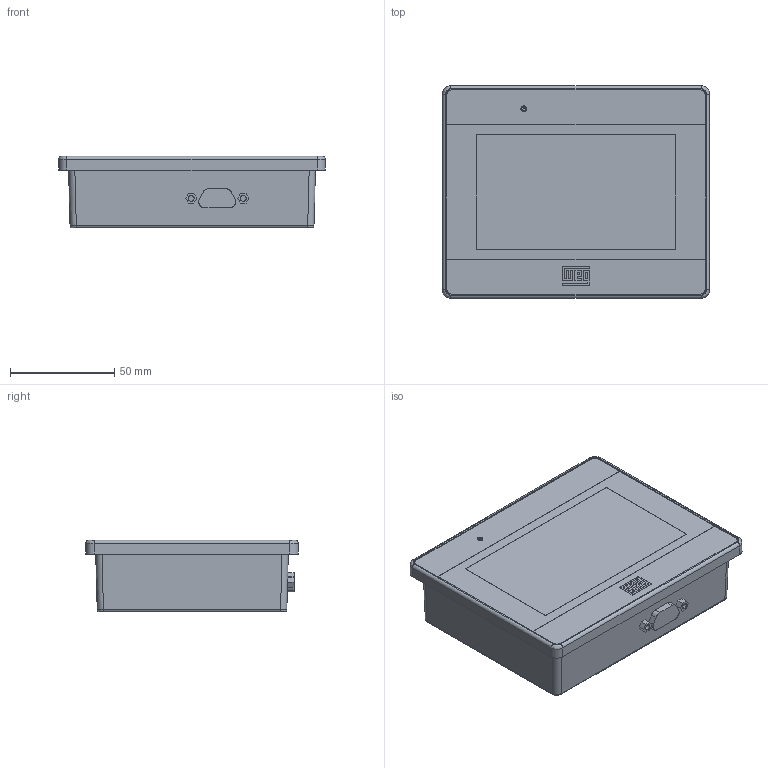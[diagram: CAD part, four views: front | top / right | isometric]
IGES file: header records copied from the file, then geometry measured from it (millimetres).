
Start section: SolidWorks IGES file using analytic representation for surfaces
Global section: file name: C:\Users\jeancg\Documents\PRODUTOS\HMI - JONAS\CLP cMT8051iP\3D\16308985 - MT8051iP1PG.IGS; native system: SolidWorks 2018; preprocessor: SolidWorks 2018; author: jeancg; date: 220714.134639; units: millimetre
Bounding box: 128 x 102 x 34.36 mm (x, y, z)
Surface area: 40381.5 mm2 (no closed solid volume)
Topology: 0 solids, 0 shells, 144 faces, 1353 edges, 1353 vertices
Faces by surface type: bspline 124, revolution 20
